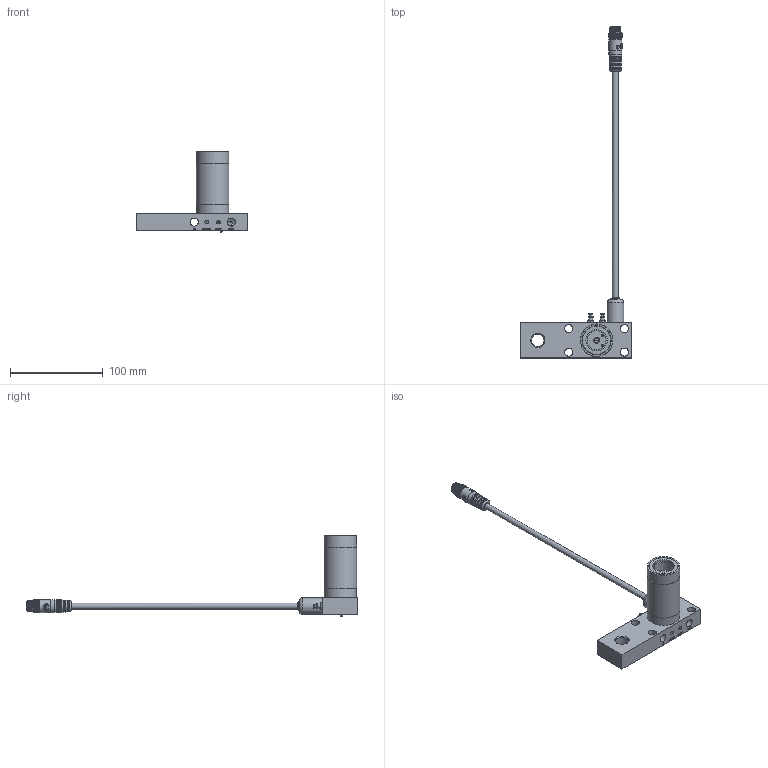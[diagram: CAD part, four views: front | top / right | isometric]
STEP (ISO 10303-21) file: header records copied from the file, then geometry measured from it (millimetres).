
FILE_DESCRIPTION(/* description */ ('ASSY,BODY,VF,IA,SXHR3,NHP_0002708407'),/* implementation_level */ '2;1');
FILE_NAME(/* name */ 'X:\ASSY,BODY,VF,IA,SXHR3,NHP_0002708407.stp',/* time_stamp */ '2021-07-07T13:08:48-04:00',/* author */ ('Simon.Britton'),/* organization */ (''),/* preprocessor_version */ 'ST-DEVELOPER v17',/* originating_system */ 'Autodesk Inventor 2019',/* authorisation */ '');
FILE_SCHEMA (('AUTOMOTIVE_DESIGN { 1 0 10303 214 3 1 1 }'));
Length unit declared in the file: millimetre
Products named in the file (1): ASSY,BODY,VF,IA,SXHR3,NHP_0002708407
Bounding box: 120.65 x 358.79 x 87.37 mm (x, y, z)
Volume: 130853.9 mm3; surface area: 67624.2 mm2
Topology: 1 solids, 69 shells, 4057 faces, 9617 edges, 5780 vertices
Faces by surface type: bspline 2515, plane 756, cylinder 689, cone 61, torus 23, sphere 13
Full cylindrical faces by diameter (mm): 1 x5, 1.05 x5, 1.25 x10, 1.35 x5, 1.6 x10, 1.8 x5, 1.85 x5, 2 x1, 2.381 x4, 2.464 x1, 2.7 x1, 2.997 x6, 3 x1, 3.2 x1, 3.81 x2, 3.962 x6, 4.216 x4, 4.366 x1, 4.496 x6, 4.763 x3, 4.8 x3, 5.7 x1, 6.35 x3, 6.4 x1, 7 x1, 8.731 x4, 8.738 x4, 9.4 x1, 9.7 x2, 10.6 x2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
Entity records: 258801 total; most frequent: CARTESIAN_POINT 171811, ORIENTED_EDGE 19172, DIRECTION 13912, EDGE_CURVE 9586, AXIS2_PLACEMENT_3D 5876, VERTEX_POINT 5776, CIRCLE 4268, EDGE_LOOP 4247
